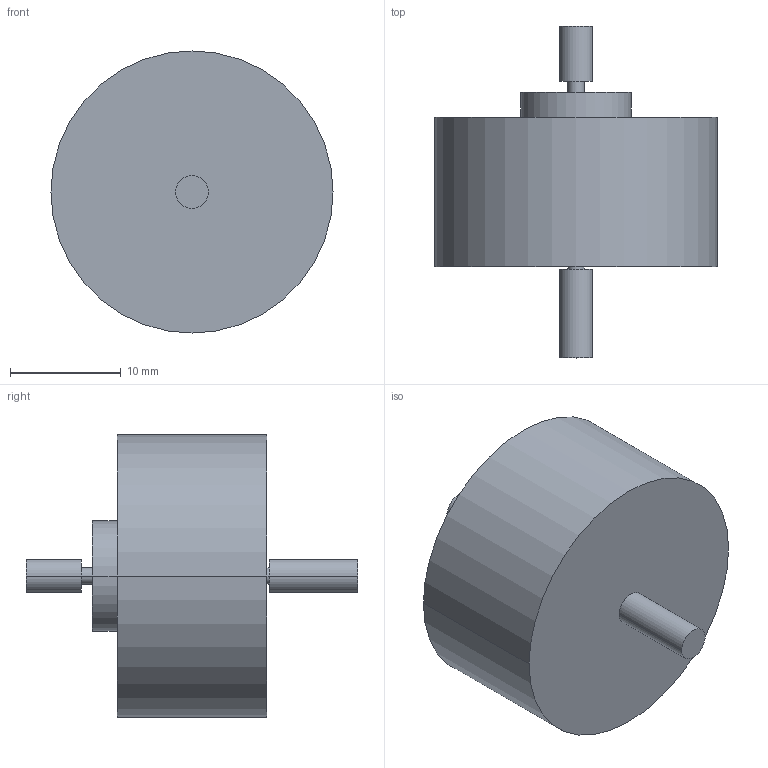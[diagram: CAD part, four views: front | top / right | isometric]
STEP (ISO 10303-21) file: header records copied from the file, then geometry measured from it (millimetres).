
FILE_DESCRIPTION (( 'STEP AP203' ), '1' );
FILE_NAME ('reb7-2kg.STEP', '2017-12-01T06:48:41', ( '' ), ( '' ), 'SwSTEP 2.0', 'SolidWorks 2016', '' );
FILE_SCHEMA (( 'CONFIG_CONTROL_DESIGN' ));
Length unit declared in the file: millimetre
Products named in the file (1): reb7-2kg
Bounding box: 25.5 x 30 x 25.5 mm (x, y, z)
Volume: 7165.3 mm3; surface area: 2323.2 mm2
Topology: 1 solids, 1 shells, 19 faces, 36 edges, 24 vertices
Faces by surface type: cylinder 12, plane 7
Entity records: 571 total; most frequent: DIRECTION 100, CARTESIAN_POINT 80, ORIENTED_EDGE 72, AXIS2_PLACEMENT_3D 44, EDGE_CURVE 36, VERTEX_POINT 24, CIRCLE 24, EDGE_LOOP 24
